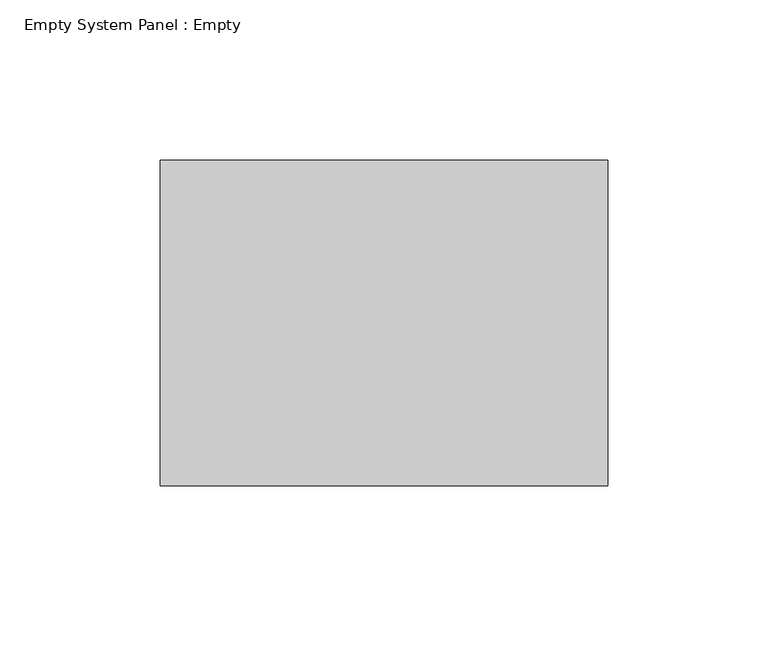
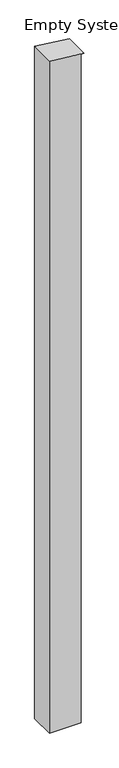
"""IFC4 building model written with IfcOpenShell, lengths in millimetres: plate geometry, Empty System Panel : Empty."""

from ifc_helpers import new_model, si_unit, frame, origin, place, context, project, spatial, polyline, outline, extrude, source, transform, mapped, element, save


def empty_system_panel_empty_ddc45ea8(model_context):
    return source(origin(), model_context, "Body", "SweptSolid", [
        extrude(outline(polyline([(0.0, -69.85), (0.0, 57.15), (2826.5849989, 57.15), (2826.5849989, 69.85), (2842.2101888, -69.85), (0.0, -69.85)])), frame((0.0, -50.8, 0.0), z_axis=(0.0, 1.0, 0.0), x_axis=(0.0, 0.0, 1.0)), (0.0, 0.0, 1.0), 101.6),
    ])


if __name__ == "__main__":
    model = new_model("IFC4")
    model_context = context("Model", 3, world=origin())
    ifc_project = project(units=[si_unit("LENGTHUNIT", "METRE", prefix="MILLI")], contexts=[model_context])
    site = spatial("IfcSite", under=ifc_project)
    building = spatial("IfcBuilding", under=site)
    placement = place(None, origin())
    empty_system_panel_empty_shape = empty_system_panel_empty_ddc45ea8(model_context)
    element("IfcPlate", 1, ObjectType="Empty System Panel : Empty", at=placement, inside=building, context=model_context, shape_type="MappedRepresentation", body=[
        mapped(empty_system_panel_empty_shape, transform((0.0, 0.0, 0.0), x_axis=(1.0, 0.0, 0.0), y_axis=(0.0, 1.0, 0.0), z_axis=(0.0, 0.0, 1.0))),
    ])
    save(model, "model.ifc")
